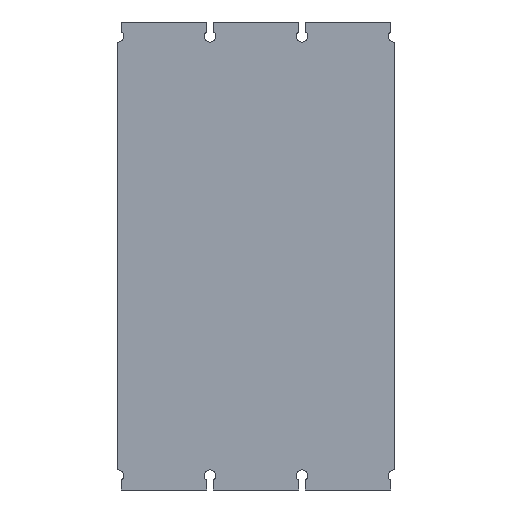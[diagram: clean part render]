
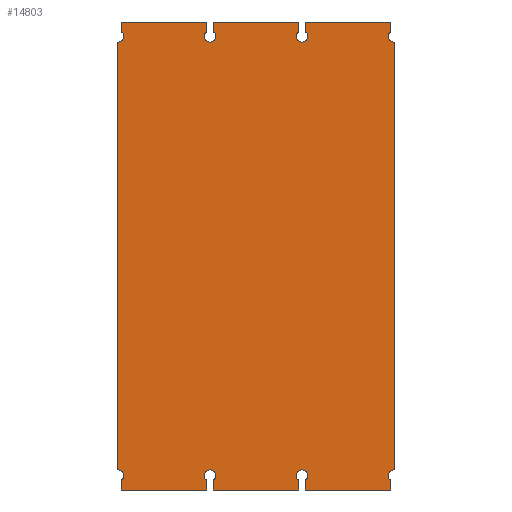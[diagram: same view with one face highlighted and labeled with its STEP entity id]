
A CAD part, front view. The second image highlights one B-rep face of the part: STEP entity #14803.
In plain terms, the highlighted planar face has unit normal (0, -1, 0).
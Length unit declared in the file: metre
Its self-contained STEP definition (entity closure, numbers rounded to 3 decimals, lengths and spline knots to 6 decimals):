
#1798=LINE('',#23118,#3737);
#1801=LINE('',#23124,#3740);
#1804=LINE('',#23130,#3743);
#1808=LINE('',#23142,#3747);
#1811=LINE('',#23148,#3750);
#1814=LINE('',#23154,#3753);
#1818=LINE('',#23166,#3757);
#1821=LINE('',#23172,#3760);
#1824=LINE('',#23178,#3763);
#1879=LINE('',#23387,#3818);
#1880=LINE('',#23389,#3819);
#1881=LINE('',#23391,#3820);
#1882=LINE('',#23395,#3821);
#1883=LINE('',#23397,#3822);
#1884=LINE('',#23399,#3823);
#1885=LINE('',#23403,#3824);
#1886=LINE('',#23405,#3825);
#1887=LINE('',#23407,#3826);
#1888=LINE('',#23410,#3827);
#1889=LINE('',#23412,#3828);
#3737=VECTOR('',#18912,0.001828);
#3740=VECTOR('',#18917,0.0163);
#3743=VECTOR('',#18922,0.001828);
#3747=VECTOR('',#18934,0.001828);
#3750=VECTOR('',#18939,0.0163);
#3753=VECTOR('',#18944,0.001828);
#3757=VECTOR('',#18956,0.001828);
#3760=VECTOR('',#18961,0.0163);
#3763=VECTOR('',#18966,0.001828);
#3818=VECTOR('',#19191,0.001828);
#3819=VECTOR('',#19192,0.0163);
#3820=VECTOR('',#19193,0.001828);
#3821=VECTOR('',#19196,0.001828);
#3822=VECTOR('',#19197,0.0163);
#3823=VECTOR('',#19198,0.001828);
#3824=VECTOR('',#19201,0.001828);
#3825=VECTOR('',#19202,0.0163);
#3826=VECTOR('',#19203,0.001828);
#3827=VECTOR('',#19206,0.0813);
#3828=VECTOR('',#19207,0.0813);
#4618=PLANE('',#15671);
#5536=FACE_OUTER_BOUND('',#6424,.T.);
#6424=EDGE_LOOP('',(#13696,#13697,#13698,#13699,#13700,#13701,#13702,#13703,
#13704,#13705,#13706,#13707,#13708,#13709,#13710,#13711,#13712,#13713,#13714,
#13715,#13716,#13717,#13718,#13719,#13720,#13721,#13722,#13723));
#6531=CIRCLE('',#15576,0.0011);
#6532=CIRCLE('',#15582,0.0011);
#6533=CIRCLE('',#15588,0.0011);
#6563=CIRCLE('',#15670,0.0011);
#6564=CIRCLE('',#15672,0.0011);
#6565=CIRCLE('',#15673,0.0011);
#6566=CIRCLE('',#15674,0.0011);
#6567=CIRCLE('',#15675,0.0011);
#7777=VERTEX_POINT('',#23115);
#7778=VERTEX_POINT('',#23117);
#7780=VERTEX_POINT('',#23123);
#7782=VERTEX_POINT('',#23129);
#7784=VERTEX_POINT('',#23135);
#7786=VERTEX_POINT('',#23141);
#7788=VERTEX_POINT('',#23147);
#7790=VERTEX_POINT('',#23153);
#7792=VERTEX_POINT('',#23159);
#7794=VERTEX_POINT('',#23165);
#7796=VERTEX_POINT('',#23171);
#7798=VERTEX_POINT('',#23177);
#7800=VERTEX_POINT('',#23183);
#7865=VERTEX_POINT('',#23381);
#7866=VERTEX_POINT('',#23385);
#7867=VERTEX_POINT('',#23386);
#7868=VERTEX_POINT('',#23388);
#7869=VERTEX_POINT('',#23390);
#7870=VERTEX_POINT('',#23392);
#7871=VERTEX_POINT('',#23394);
#7872=VERTEX_POINT('',#23396);
#7873=VERTEX_POINT('',#23398);
#7874=VERTEX_POINT('',#23400);
#7875=VERTEX_POINT('',#23402);
#7876=VERTEX_POINT('',#23404);
#7877=VERTEX_POINT('',#23406);
#7878=VERTEX_POINT('',#23408);
#7879=VERTEX_POINT('',#23411);
#9731=EDGE_CURVE('',#7778,#7777,#1798,.T.);
#9734=EDGE_CURVE('',#7778,#7780,#1801,.T.);
#9737=EDGE_CURVE('',#7780,#7782,#1804,.T.);
#9740=EDGE_CURVE('',#7784,#7782,#6531,.T.);
#9743=EDGE_CURVE('',#7786,#7784,#1808,.T.);
#9746=EDGE_CURVE('',#7786,#7788,#1811,.T.);
#9749=EDGE_CURVE('',#7788,#7790,#1814,.T.);
#9752=EDGE_CURVE('',#7792,#7790,#6532,.T.);
#9755=EDGE_CURVE('',#7794,#7792,#1818,.T.);
#9758=EDGE_CURVE('',#7794,#7796,#1821,.T.);
#9761=EDGE_CURVE('',#7796,#7798,#1824,.T.);
#9764=EDGE_CURVE('',#7800,#7798,#6533,.T.);
#9851=EDGE_CURVE('',#7777,#7865,#6563,.T.);
#9852=EDGE_CURVE('',#7866,#7867,#1879,.T.);
#9853=EDGE_CURVE('',#7868,#7866,#1880,.T.);
#9854=EDGE_CURVE('',#7868,#7869,#1881,.T.);
#9855=EDGE_CURVE('',#7869,#7870,#6564,.T.);
#9856=EDGE_CURVE('',#7871,#7870,#1882,.T.);
#9857=EDGE_CURVE('',#7872,#7871,#1883,.T.);
#9858=EDGE_CURVE('',#7872,#7873,#1884,.T.);
#9859=EDGE_CURVE('',#7873,#7874,#6565,.T.);
#9860=EDGE_CURVE('',#7875,#7874,#1885,.T.);
#9861=EDGE_CURVE('',#7876,#7875,#1886,.T.);
#9862=EDGE_CURVE('',#7876,#7877,#1887,.T.);
#9863=EDGE_CURVE('',#7877,#7878,#6566,.T.);
#9864=EDGE_CURVE('',#7800,#7878,#1888,.T.);
#9865=EDGE_CURVE('',#7879,#7865,#1889,.T.);
#9866=EDGE_CURVE('',#7879,#7867,#6567,.T.);
#13696=ORIENTED_EDGE('',*,*,#9852,.F.);
#13697=ORIENTED_EDGE('',*,*,#9853,.F.);
#13698=ORIENTED_EDGE('',*,*,#9854,.T.);
#13699=ORIENTED_EDGE('',*,*,#9855,.T.);
#13700=ORIENTED_EDGE('',*,*,#9856,.F.);
#13701=ORIENTED_EDGE('',*,*,#9857,.F.);
#13702=ORIENTED_EDGE('',*,*,#9858,.T.);
#13703=ORIENTED_EDGE('',*,*,#9859,.T.);
#13704=ORIENTED_EDGE('',*,*,#9860,.F.);
#13705=ORIENTED_EDGE('',*,*,#9861,.F.);
#13706=ORIENTED_EDGE('',*,*,#9862,.T.);
#13707=ORIENTED_EDGE('',*,*,#9863,.T.);
#13708=ORIENTED_EDGE('',*,*,#9864,.F.);
#13709=ORIENTED_EDGE('',*,*,#9764,.T.);
#13710=ORIENTED_EDGE('',*,*,#9761,.F.);
#13711=ORIENTED_EDGE('',*,*,#9758,.F.);
#13712=ORIENTED_EDGE('',*,*,#9755,.T.);
#13713=ORIENTED_EDGE('',*,*,#9752,.T.);
#13714=ORIENTED_EDGE('',*,*,#9749,.F.);
#13715=ORIENTED_EDGE('',*,*,#9746,.F.);
#13716=ORIENTED_EDGE('',*,*,#9743,.T.);
#13717=ORIENTED_EDGE('',*,*,#9740,.T.);
#13718=ORIENTED_EDGE('',*,*,#9737,.F.);
#13719=ORIENTED_EDGE('',*,*,#9734,.F.);
#13720=ORIENTED_EDGE('',*,*,#9731,.T.);
#13721=ORIENTED_EDGE('',*,*,#9851,.T.);
#13722=ORIENTED_EDGE('',*,*,#9865,.F.);
#13723=ORIENTED_EDGE('',*,*,#9866,.T.);
#14803=ADVANCED_FACE('',(#5536),#4618,.F.);
#15576=AXIS2_PLACEMENT_3D('',#23136,#18927,#18928);
#15582=AXIS2_PLACEMENT_3D('',#23160,#18949,#18950);
#15588=AXIS2_PLACEMENT_3D('',#23184,#18971,#18972);
#15670=AXIS2_PLACEMENT_3D('',#23383,#19187,#19188);
#15671=AXIS2_PLACEMENT_3D('',#23384,#19189,#19190);
#15672=AXIS2_PLACEMENT_3D('',#23393,#19194,#19195);
#15673=AXIS2_PLACEMENT_3D('',#23401,#19199,#19200);
#15674=AXIS2_PLACEMENT_3D('',#23409,#19204,#19205);
#15675=AXIS2_PLACEMENT_3D('',#23413,#19208,#19209);
#18912=DIRECTION('',(0.,0.,1.));
#18917=DIRECTION('',(-1.,0.,0.));
#18922=DIRECTION('',(0.,0.,1.));
#18927=DIRECTION('center_axis',(0.,1.,0.));
#18928=DIRECTION('ref_axis',(-0.545,0.,-0.838));
#18934=DIRECTION('',(0.,0.,1.));
#18939=DIRECTION('',(-1.,0.,0.));
#18944=DIRECTION('',(0.,0.,1.));
#18949=DIRECTION('center_axis',(0.,1.,0.));
#18950=DIRECTION('ref_axis',(-0.545,0.,-0.838));
#18956=DIRECTION('',(0.,0.,1.));
#18961=DIRECTION('',(-1.,0.,0.));
#18966=DIRECTION('',(0.,0.,1.));
#18971=DIRECTION('center_axis',(0.,1.,0.));
#18972=DIRECTION('ref_axis',(0.,0.,1.));
#19187=DIRECTION('center_axis',(0.,1.,0.));
#19188=DIRECTION('ref_axis',(-0.545,0.,-0.838));
#19189=DIRECTION('center_axis',(0.,1.,0.));
#19190=DIRECTION('ref_axis',(0.,0.,1.));
#19191=DIRECTION('',(0.,0.,-1.));
#19192=DIRECTION('',(1.,0.,0.));
#19193=DIRECTION('',(0.,0.,-1.));
#19194=DIRECTION('center_axis',(0.,1.,0.));
#19195=DIRECTION('ref_axis',(0.545,0.,0.838));
#19196=DIRECTION('',(0.,0.,-1.));
#19197=DIRECTION('',(1.,0.,0.));
#19198=DIRECTION('',(0.,0.,-1.));
#19199=DIRECTION('center_axis',(0.,1.,0.));
#19200=DIRECTION('ref_axis',(0.545,0.,0.838));
#19201=DIRECTION('',(0.,0.,-1.));
#19202=DIRECTION('',(1.,0.,0.));
#19203=DIRECTION('',(0.,0.,-1.));
#19204=DIRECTION('center_axis',(0.,1.,0.));
#19205=DIRECTION('ref_axis',(0.545,0.,0.838));
#19206=DIRECTION('',(0.,0.,1.));
#19207=DIRECTION('',(0.,0.,-1.));
#19208=DIRECTION('center_axis',(0.,1.,0.));
#19209=DIRECTION('ref_axis',(0.,0.,-1.));
#23115=CARTESIAN_POINT('',(0.02565,-0.0375,-0.042672));
#23117=CARTESIAN_POINT('',(0.02565,-0.0375,-0.0445));
#23118=CARTESIAN_POINT('',(0.02565,-0.0375,-0.0445));
#23123=CARTESIAN_POINT('',(0.00935,-0.0375,-0.0445));
#23124=CARTESIAN_POINT('',(0.02565,-0.0375,-0.0445));
#23129=CARTESIAN_POINT('',(0.00935,-0.0375,-0.042672));
#23130=CARTESIAN_POINT('',(0.00935,-0.0375,-0.0445));
#23135=CARTESIAN_POINT('',(0.00815,-0.0375,-0.042672));
#23136=CARTESIAN_POINT('Origin',(0.00875,-0.0375,-0.04175));
#23141=CARTESIAN_POINT('',(0.00815,-0.0375,-0.0445));
#23142=CARTESIAN_POINT('',(0.00815,-0.0375,-0.0445));
#23147=CARTESIAN_POINT('',(-0.00815,-0.0375,-0.0445));
#23148=CARTESIAN_POINT('',(0.00815,-0.0375,-0.0445));
#23153=CARTESIAN_POINT('',(-0.00815,-0.0375,-0.042672));
#23154=CARTESIAN_POINT('',(-0.00815,-0.0375,-0.0445));
#23159=CARTESIAN_POINT('',(-0.00935,-0.0375,-0.042672));
#23160=CARTESIAN_POINT('Origin',(-0.00875,-0.0375,-0.04175));
#23165=CARTESIAN_POINT('',(-0.00935,-0.0375,-0.0445));
#23166=CARTESIAN_POINT('',(-0.00935,-0.0375,-0.0445));
#23171=CARTESIAN_POINT('',(-0.02565,-0.0375,-0.0445));
#23172=CARTESIAN_POINT('',(-0.00935,-0.0375,-0.0445));
#23177=CARTESIAN_POINT('',(-0.02565,-0.0375,-0.042672));
#23178=CARTESIAN_POINT('',(-0.02565,-0.0375,-0.0445));
#23183=CARTESIAN_POINT('',(-0.02625,-0.0375,-0.04065));
#23184=CARTESIAN_POINT('Origin',(-0.02625,-0.0375,-0.04175));
#23381=CARTESIAN_POINT('',(0.02625,-0.0375,-0.04065));
#23383=CARTESIAN_POINT('Origin',(0.02625,-0.0375,-0.04175));
#23384=CARTESIAN_POINT('Origin',(0.,-0.0375,0.));
#23385=CARTESIAN_POINT('',(0.02565,-0.0375,0.0445));
#23386=CARTESIAN_POINT('',(0.02565,-0.0375,0.042672));
#23387=CARTESIAN_POINT('',(0.02565,-0.0375,0.0445));
#23388=CARTESIAN_POINT('',(0.00935,-0.0375,0.0445));
#23389=CARTESIAN_POINT('',(0.00935,-0.0375,0.0445));
#23390=CARTESIAN_POINT('',(0.00935,-0.0375,0.042672));
#23391=CARTESIAN_POINT('',(0.00935,-0.0375,0.0445));
#23392=CARTESIAN_POINT('',(0.00815,-0.0375,0.042672));
#23393=CARTESIAN_POINT('Origin',(0.00875,-0.0375,0.04175));
#23394=CARTESIAN_POINT('',(0.00815,-0.0375,0.0445));
#23395=CARTESIAN_POINT('',(0.00815,-0.0375,0.0445));
#23396=CARTESIAN_POINT('',(-0.00815,-0.0375,0.0445));
#23397=CARTESIAN_POINT('',(-0.00815,-0.0375,0.0445));
#23398=CARTESIAN_POINT('',(-0.00815,-0.0375,0.042672));
#23399=CARTESIAN_POINT('',(-0.00815,-0.0375,0.0445));
#23400=CARTESIAN_POINT('',(-0.00935,-0.0375,0.042672));
#23401=CARTESIAN_POINT('Origin',(-0.00875,-0.0375,0.04175));
#23402=CARTESIAN_POINT('',(-0.00935,-0.0375,0.0445));
#23403=CARTESIAN_POINT('',(-0.00935,-0.0375,0.0445));
#23404=CARTESIAN_POINT('',(-0.02565,-0.0375,0.0445));
#23405=CARTESIAN_POINT('',(-0.02565,-0.0375,0.0445));
#23406=CARTESIAN_POINT('',(-0.02565,-0.0375,0.042672));
#23407=CARTESIAN_POINT('',(-0.02565,-0.0375,0.0445));
#23408=CARTESIAN_POINT('',(-0.02625,-0.0375,0.04065));
#23409=CARTESIAN_POINT('Origin',(-0.02625,-0.0375,0.04175));
#23410=CARTESIAN_POINT('',(-0.02625,-0.0375,-0.04065));
#23411=CARTESIAN_POINT('',(0.02625,-0.0375,0.04065));
#23412=CARTESIAN_POINT('',(0.02625,-0.0375,0.04065));
#23413=CARTESIAN_POINT('Origin',(0.02625,-0.0375,0.04175));
